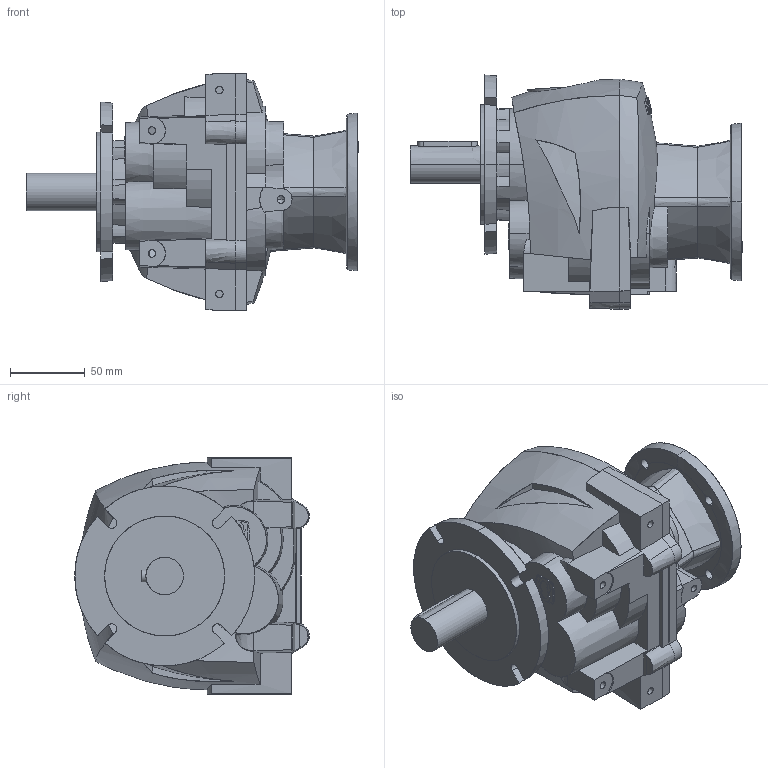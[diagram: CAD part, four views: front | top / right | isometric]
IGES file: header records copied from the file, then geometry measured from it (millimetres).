
Start section: SolidWorks IGES file using analytic representation for surfaces
Global section: file name: C:\Users\Tahir Momin\Desktop\RBA2_UNV_OFL_FSW_OPTION-5\RBA2_IFL71B4_OFL120_OSH25L50.IGS; native system: SolidWorks 2012; preprocessor: SolidWorks 2012; author: Tahir Momin; date: 130207.155145; units: millimetre
Bounding box: 221.5 x 156.5 x 158 mm (x, y, z)
Surface area: 139961.2 mm2 (no closed solid volume)
Topology: 0 solids, 0 shells, 466 faces, 4669 edges, 4667 vertices
Faces by surface type: bspline 290, revolution 176
